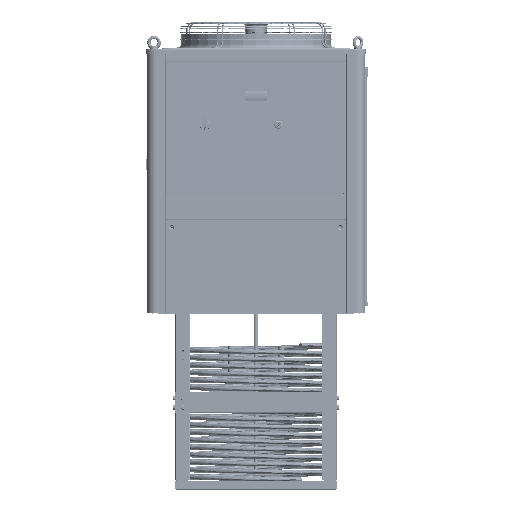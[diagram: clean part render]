
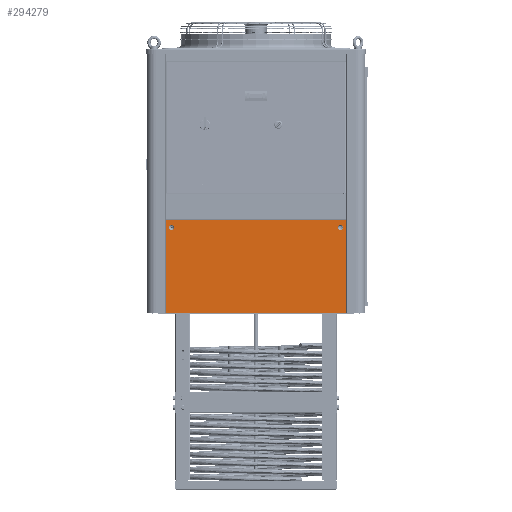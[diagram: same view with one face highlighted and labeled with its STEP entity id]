
A CAD part, left-side view. The second image highlights one B-rep face of the part: STEP entity #294279.
In plain terms, the highlighted planar face has unit normal (-1, 0, 0) as drawn and (0, 0, 1) by its records, which use the part's own axes.
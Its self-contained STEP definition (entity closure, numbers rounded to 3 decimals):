
#1499 = ORIENTED_EDGE ( 'NONE', *, *, #459313, .T. ) ;
#20625 = DIRECTION ( 'NONE',  ( 0., -1., 0. ) ) ;
#22116 = EDGE_CURVE ( 'NONE', #468331, #505153, #337774, .T. ) ;
#45976 = LINE ( 'NONE', #99194, #468821 ) ;
#57849 = FACE_OUTER_BOUND ( 'NONE', #466641, .T. ) ;
#61643 = DIRECTION ( 'NONE',  ( 0., -1., 0. ) ) ;
#62278 = CARTESIAN_POINT ( 'NONE',  ( -306.2, 158., 0. ) ) ;
#62456 = EDGE_CURVE ( 'NONE', #564738, #381759, #423393, .T. ) ;
#66575 = CARTESIAN_POINT ( 'NONE',  ( 0., 0., 0. ) ) ;
#74416 = VERTEX_POINT ( 'NONE', #475626 ) ;
#81015 = VERTEX_POINT ( 'NONE', #488451 ) ;
#99194 = CARTESIAN_POINT ( 'NONE',  ( -307.7, -158., 0. ) ) ;
#128418 = DIRECTION ( 'NONE',  ( 0., 0., -1. ) ) ;
#135676 = CARTESIAN_POINT ( 'NONE',  ( -306.2, 158., 0. ) ) ;
#146792 = FACE_BOUND ( 'NONE', #461342, .T. ) ;
#148320 = EDGE_CURVE ( 'NONE', #74416, #296977, #252799, .T. ) ;
#152470 = VERTEX_POINT ( 'NONE', #184506 ) ;
#179671 = DIRECTION ( 'NONE',  ( 0., 0., -1. ) ) ;
#184506 = CARTESIAN_POINT ( 'NONE',  ( 306.2, -158., 0. ) ) ;
#219814 = CARTESIAN_POINT ( 'NONE',  ( 306.2, -158., 0. ) ) ;
#231895 = CARTESIAN_POINT ( 'NONE',  ( -287.7, 134.5, 0. ) ) ;
#252799 = LINE ( 'NONE', #513625, #448776 ) ;
#273558 = CARTESIAN_POINT ( 'NONE',  ( 287.7, 143.056, 0. ) ) ;
#286009 = FACE_BOUND ( 'NONE', #463738, .T. ) ;
#287525 = LINE ( 'NONE', #62278, #321047 ) ;
#290360 = ORIENTED_EDGE ( 'NONE', *, *, #395391, .T. ) ;
#294279 = ADVANCED_FACE ( 'NONE', ( #286009, #146792, #57849 ), #472555, .T. ) ;
#296977 = VERTEX_POINT ( 'NONE', #135676 ) ;
#308799 = LINE ( 'NONE', #219814, #491530 ) ;
#318635 = DIRECTION ( 'NONE',  ( 1., 0., 0. ) ) ;
#319383 = AXIS2_PLACEMENT_3D ( 'NONE', #231895, #128418, #581689 ) ;
#321047 = VECTOR ( 'NONE', #423808, 1000. ) ;
#327614 = DIRECTION ( 'NONE',  ( 1., 0., 0. ) ) ;
#331923 = DIRECTION ( 'NONE',  ( 0., 0., -1. ) ) ;
#332814 = CARTESIAN_POINT ( 'NONE',  ( 287.7, 134.5, 0. ) ) ;
#337774 = CIRCLE ( 'NONE', #394535, 8.556 ) ;
#360467 = DIRECTION ( 'NONE',  ( 0., -1., 0. ) ) ;
#362418 = CARTESIAN_POINT ( 'NONE',  ( -287.7, 125.944, 0. ) ) ;
#365352 = AXIS2_PLACEMENT_3D ( 'NONE', #521307, #331923, #20625 ) ;
#381759 = VERTEX_POINT ( 'NONE', #362418 ) ;
#385748 = ORIENTED_EDGE ( 'NONE', *, *, #62456, .T. ) ;
#394535 = AXIS2_PLACEMENT_3D ( 'NONE', #332814, #179671, #360467 ) ;
#395391 = EDGE_CURVE ( 'NONE', #81015, #152470, #45976, .T. ) ;
#397639 = AXIS2_PLACEMENT_3D ( 'NONE', #66575, #428091, #327614 ) ;
#400572 = DIRECTION ( 'NONE',  ( 0., 1., 0. ) ) ;
#404224 = CARTESIAN_POINT ( 'NONE',  ( 287.7, 125.944, 0. ) ) ;
#412435 = EDGE_CURVE ( 'NONE', #505153, #468331, #413450, .T. ) ;
#413450 = CIRCLE ( 'NONE', #544482, 8.556 ) ;
#414829 = CARTESIAN_POINT ( 'NONE',  ( -287.7, 143.056, 0. ) ) ;
#423393 = CIRCLE ( 'NONE', #319383, 8.556 ) ;
#423808 = DIRECTION ( 'NONE',  ( 0., -1., 0. ) ) ;
#428091 = DIRECTION ( 'NONE',  ( 0., 0., 1. ) ) ;
#445188 = EDGE_CURVE ( 'NONE', #296977, #81015, #287525, .T. ) ;
#448776 = VECTOR ( 'NONE', #469212, 1000. ) ;
#459313 = EDGE_CURVE ( 'NONE', #381759, #564738, #497713, .T. ) ;
#460900 = ORIENTED_EDGE ( 'NONE', *, *, #445188, .T. ) ;
#461342 = EDGE_LOOP ( 'NONE', ( #1499, #385748 ) ) ;
#463738 = EDGE_LOOP ( 'NONE', ( #482426, #518660 ) ) ;
#465786 = ORIENTED_EDGE ( 'NONE', *, *, #148320, .T. ) ;
#466641 = EDGE_LOOP ( 'NONE', ( #465786, #460900, #290360, #543810 ) ) ;
#467600 = CARTESIAN_POINT ( 'NONE',  ( 287.7, 134.5, 0. ) ) ;
#468331 = VERTEX_POINT ( 'NONE', #404224 ) ;
#468821 = VECTOR ( 'NONE', #318635, 1000. ) ;
#469212 = DIRECTION ( 'NONE',  ( -1., 0., 0. ) ) ;
#472555 = PLANE ( 'NONE',  #397639 ) ;
#475626 = CARTESIAN_POINT ( 'NONE',  ( 306.2, 158., 0. ) ) ;
#482426 = ORIENTED_EDGE ( 'NONE', *, *, #22116, .T. ) ;
#488451 = CARTESIAN_POINT ( 'NONE',  ( -306.2, -158., 0. ) ) ;
#491530 = VECTOR ( 'NONE', #400572, 1000. ) ;
#497713 = CIRCLE ( 'NONE', #365352, 8.556 ) ;
#505153 = VERTEX_POINT ( 'NONE', #273558 ) ;
#506236 = DIRECTION ( 'NONE',  ( 0., 0., -1. ) ) ;
#513625 = CARTESIAN_POINT ( 'NONE',  ( 307.7, 158., 0. ) ) ;
#518660 = ORIENTED_EDGE ( 'NONE', *, *, #412435, .T. ) ;
#521307 = CARTESIAN_POINT ( 'NONE',  ( -287.7, 134.5, 0. ) ) ;
#530929 = EDGE_CURVE ( 'NONE', #152470, #74416, #308799, .T. ) ;
#543810 = ORIENTED_EDGE ( 'NONE', *, *, #530929, .T. ) ;
#544482 = AXIS2_PLACEMENT_3D ( 'NONE', #467600, #506236, #61643 ) ;
#564738 = VERTEX_POINT ( 'NONE', #414829 ) ;
#581689 = DIRECTION ( 'NONE',  ( 0., -1., 0. ) ) ;
